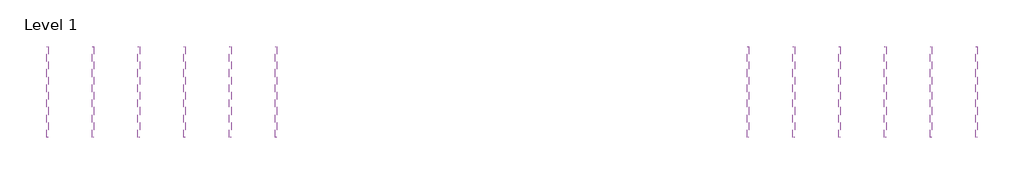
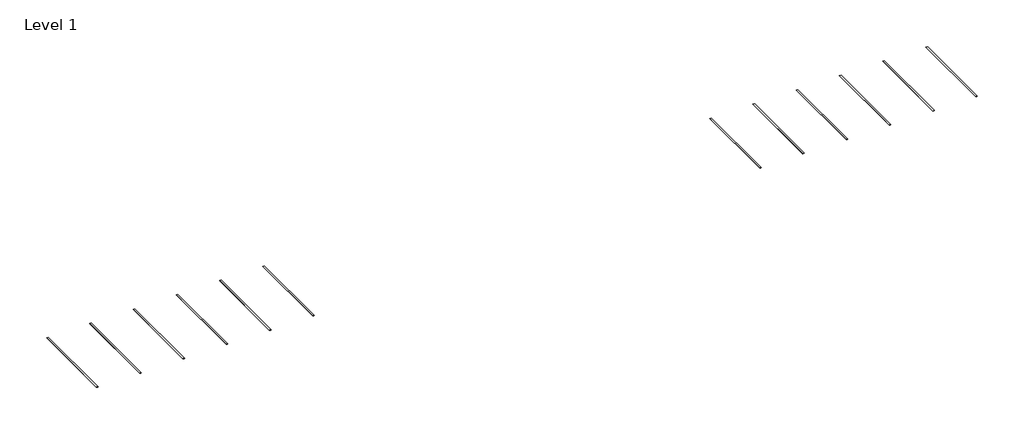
# One storey: 12 proxies.
"""IFC4 building model written with IfcOpenShell, lengths in millimetres."""

import ifcopenshell
import ifcopenshell.guid

model = None  # the IFC model being written
_history = None  # IfcOwnerHistory: only IFC2X3 demands one
_inside = {}  # id of a spatial element -> (the spatial element, [elements in it])
_under = {}  # id of a project, library or spatial element -> (it, [spatial elements below it])
_declared = {}  # id of a project -> (the project, [libraries it declares])
_typed = {}  # id of a type object -> (the type object, [elements of that type])
_made_of = {}  # id of a material, layer set ... -> (it, [elements and type objects made of it])


def new_model(schema):
    """Start an empty IFC model of exactly this schema.

    Asked for "IFC4X3", IfcOpenShell would pick the latest addendum, in which some entities
    have other attributes; the version numbers below select the first issue.
    IFC2X3 requires an IfcOwnerHistory on every rooted entity: one is made here for all.
    """
    global model, _history
    if schema == "IFC4X3":
        model = ifcopenshell.file(schema_version=(4, 3, 0, 0))
    else:
        model = ifcopenshell.file(schema=schema)
    _inside.clear()
    _under.clear()
    _declared.clear()
    _typed.clear()
    _made_of.clear()
    _history = None
    if model.schema == "IFC2X3":
        org = make("IfcOrganization", Name="unknown")
        user = make(
            "IfcPersonAndOrganization",
            ThePerson=make("IfcPerson", FamilyName="unknown"),
            TheOrganization=org,
        )
        app = make(
            "IfcApplication",
            ApplicationDeveloper=org,
            Version="unknown",
            ApplicationFullName="unknown",
            ApplicationIdentifier="unknown",
        )
        _history = make(
            "IfcOwnerHistory",
            OwningUser=user,
            OwningApplication=app,
            ChangeAction="ADDED",
            CreationDate=0,
        )
    return model


def make(cls, **values):
    """One entity of the class cls with the attributes given. An attribute that is None is left unset."""
    return model.create_entity(
        cls, **{name: value for name, value in values.items() if value is not None}
    )


def rooted(cls, **values):
    """An entity with a GlobalId (a new one), such as an element, a storey or a relation."""
    return make(cls, GlobalId=ifcopenshell.guid.new(), OwnerHistory=_history, **values)


def si_unit(unit_type, name, prefix=None):
    """IfcSIUnit, for example si_unit("LENGTHUNIT", "METRE", prefix="MILLI")."""
    return make("IfcSIUnit", UnitType=unit_type, Prefix=prefix, Name=name)


def assignment(units):
    """IfcUnitAssignment: the units of a project."""
    return None if units is None else make("IfcUnitAssignment", Units=units)


def point(xyz):
    """IfcCartesianPoint."""
    return None if xyz is None else make("IfcCartesianPoint", Coordinates=xyz)


def direction(xyz):
    """IfcDirection."""
    return None if xyz is None else make("IfcDirection", DirectionRatios=xyz)


def frame(location, z_axis=None, x_axis=None):
    """IfcAxis2Placement3D, a coordinate frame: its origin and axes. An axis left out is left unset."""
    return make(
        "IfcAxis2Placement3D",
        Location=point(location),
        Axis=direction(z_axis),
        RefDirection=direction(x_axis),
    )


def origin():
    """The frame at (0, 0, 0) with its axes left unset."""
    return frame((0.0, 0.0, 0.0))


def origin_with_axes():
    """The frame at (0, 0, 0) with the z axis (0, 0, 1) and the x axis (1, 0, 0) written out."""
    return frame((0.0, 0.0, 0.0), z_axis=(0.0, 0.0, 1.0), x_axis=(1.0, 0.0, 0.0))


def place(relative_to, where):
    """IfcLocalPlacement: puts the frame where relative to a parent placement (None: the world)."""
    return make(
        "IfcLocalPlacement", PlacementRelTo=relative_to, RelativePlacement=where
    )


def context(
    kind, dimensions, precision=None, world=None, true_north=None, identifier=None
):
    """IfcGeometricRepresentationContext, for example the 3D "Model" context."""
    return make(
        "IfcGeometricRepresentationContext",
        ContextIdentifier=identifier,
        ContextType=kind,
        CoordinateSpaceDimension=dimensions,
        Precision=precision,
        WorldCoordinateSystem=world,
        TrueNorth=true_north,
    )


def project(units=None, contexts=None):
    """IfcProject with its units and contexts."""
    return rooted(
        "IfcProject",
        Name="project",
        RepresentationContexts=contexts,
        UnitsInContext=assignment(units),
    )


def spatial(cls, under=None, at=None, **own):
    """A site, building, storey or space (cls), placed at a placement, below another one or the project."""
    s = rooted(cls, ObjectPlacement=at, **own)
    if under is not None:
        _under.setdefault(under.id(), (under, []))[1].append(s)
    return s


def polyline(points):
    """IfcPolyline through the points."""
    return make("IfcPolyline", Points=[point(p) for p in points])


def outline(outer, holes=None, kind="AREA"):
    """IfcArbitraryClosedProfileDef: a profile drawn as a closed curve; with holes, ...WithVoids."""
    if holes is None:
        return make("IfcArbitraryClosedProfileDef", ProfileType=kind, OuterCurve=outer)
    return make(
        "IfcArbitraryProfileDefWithVoids",
        ProfileType=kind,
        OuterCurve=outer,
        InnerCurves=holes,
    )


def extrude(swept, where, along, depth):
    """IfcExtrudedAreaSolid: the profile swept, set in the frame where, extruded along a direction by depth."""
    return make(
        "IfcExtrudedAreaSolid",
        SweptArea=swept,
        Position=where,
        ExtrudedDirection=direction(along),
        Depth=depth,
    )


def shape(context_of_items, identifier, shape_type, items):
    """IfcShapeRepresentation: the items that make up one representation, for example the "Body"."""
    return make(
        "IfcShapeRepresentation",
        ContextOfItems=context_of_items,
        RepresentationIdentifier=identifier,
        RepresentationType=shape_type,
        Items=items,
    )


def source(mapping_origin, context_of_items, identifier, shape_type, items):
    """IfcRepresentationMap: a shape defined once, which mapped items show again and again."""
    return make(
        "IfcRepresentationMap",
        MappingOrigin=mapping_origin,
        MappedRepresentation=shape(context_of_items, identifier, shape_type, items),
    )


def transform(
    local_origin,
    x_axis=None,
    y_axis=None,
    z_axis=None,
    scale=None,
    scale2=None,
    scale3=None,
    uniform=True,
):
    """IfcCartesianTransformationOperator3D, or its non-uniform kind. x_axis, y_axis, z_axis: its Axis1, 2, 3."""
    if uniform:
        return make(
            "IfcCartesianTransformationOperator3D",
            Axis1=direction(x_axis),
            Axis2=direction(y_axis),
            LocalOrigin=point(local_origin),
            Scale=scale,
            Axis3=direction(z_axis),
        )
    return make(
        "IfcCartesianTransformationOperator3DnonUniform",
        Axis1=direction(x_axis),
        Axis2=direction(y_axis),
        LocalOrigin=point(local_origin),
        Scale=scale,
        Axis3=direction(z_axis),
        Scale2=scale2,
        Scale3=scale3,
    )


def mapped(mapping_source, mapping_target):
    """IfcMappedItem: shows the shape of a source again, moved by a transform."""
    return make(
        "IfcMappedItem", MappingSource=mapping_source, MappingTarget=mapping_target
    )


def made_of(thing, what):
    """Note that an element or type object is made of a material, layer set ...; save() writes the relation."""
    if what is not None:
        _made_of.setdefault(what.id(), (what, []))[1].append(thing)
    return thing


def element(
    cls,
    number,
    at=None,
    inside=None,
    cuts=None,
    type_object=None,
    material=None,
    context=None,
    identifier="Body",
    shape_type=None,
    held_by="IfcProductDefinitionShape",
    body=None,
    shapes=None,
    **own,
):
    """One element of the class cls, such as IfcWall. Its Tag is "e" and its number.

    at: its placement. inside: the storey or other place that contains it. cuts: it is an
    opening in that element (IfcRelVoidsElement). A single representation is given by context,
    identifier, shape_type and body (its items); several are given by shapes. held_by: the class
    of the entity that holds the representations. save() writes the other relations.
    """
    e = rooted(cls, Tag="e%d" % number, ObjectPlacement=at, **own)
    if body is not None:
        shapes = [shape(context, identifier, shape_type, body)]
    if shapes is not None:
        e.Representation = make(held_by, Representations=shapes)
    if inside is not None:
        _inside.setdefault(inside.id(), (inside, []))[1].append(e)
    if cuts is not None:
        rooted(
            "IfcRelVoidsElement", RelatingBuildingElement=cuts, RelatedOpeningElement=e
        )
    if type_object is not None:
        _typed.setdefault(type_object.id(), (type_object, []))[1].append(e)
    return made_of(e, material)


def aggregate(whole, parts):
    """IfcRelAggregates: a whole, such as a stair, and the parts it consists of."""
    return rooted("IfcRelAggregates", RelatingObject=whole, RelatedObjects=parts)


def save(model, path):
    """Write the relations noted so far, then the file.

    IfcRelAggregates (storeys below a building ...), IfcRelContainedInSpatialStructure (elements
    in a storey), IfcRelDefinesByType, IfcRelAssociatesMaterial and IfcRelDeclares: one each for
    every whole, place, type object, material and project.
    """
    for whole, parts in _under.values():
        aggregate(whole, parts)
    for where, things in _inside.values():
        rooted(
            "IfcRelContainedInSpatialStructure",
            RelatedElements=things,
            RelatingStructure=where,
        )
    for kind, things in _typed.values():
        rooted("IfcRelDefinesByType", RelatedObjects=things, RelatingType=kind)
    for what, things in _made_of.values():
        rooted("IfcRelAssociatesMaterial", RelatedObjects=things, RelatingMaterial=what)
    for by, libraries in _declared.values():
        rooted("IfcRelDeclares", RelatingContext=by, RelatedDefinitions=libraries)
    model.write(path)


def parking_space_9_x_18_90_deg_b8b21359(model_context):
    return source(origin(), model_context, "Body", "SweptSolid", [
        extrude(outline(polyline([(-50.8, 0.0), (50.8, 0.0), (50.8, -5486.4), (-50.8, -5486.4), (-50.8, 0.0)])), origin_with_axes(), (0.0, 0.0, 1.0), 3.175),
    ])


model = new_model("IFC4")

# Units and contexts
model_context = context("Model", 3, world=origin())
ifc_project = project(units=[si_unit("LENGTHUNIT", "METRE", prefix="MILLI")], contexts=[model_context])

# Site, building, storey
site = spatial("IfcSite", under=ifc_project)
building = spatial("IfcBuilding", under=site)
storey = spatial("IfcBuildingStorey", under=building, Name="Level 1", Elevation=0.0)

# Proxies
placement = place(None, origin())
parking_space_9_x_18_90_deg_shape = parking_space_9_x_18_90_deg_b8b21359(model_context)
element("IfcBuildingElementProxy", 1, Name="Parking Space : 9' x 18' - 90 deg", ObjectType="Parking Space : 9' x 18' - 90 deg", at=placement, inside=storey, context=model_context, shape_type="MappedRepresentation", body=[
    mapped(parking_space_9_x_18_90_deg_shape, transform((-104687.958026, -122057.1218987, 3048.7803686), x_axis=(1.0, 0.0, 0.0), y_axis=(0.0, 1.0, 0.0), z_axis=(0.0, 0.0, 1.0))),
])
element("IfcBuildingElementProxy", 2, Name="Parking Space : 9' x 18' - 90 deg", ObjectType="Parking Space : 9' x 18' - 90 deg", at=placement, inside=storey, context=model_context, shape_type="MappedRepresentation", body=[
    mapped(parking_space_9_x_18_90_deg_shape, transform((-107431.158026, -122057.1218987, 3048.7803686), x_axis=(1.0, 0.0, 0.0), y_axis=(0.0, 1.0, 0.0), z_axis=(0.0, 0.0, 1.0))),
])
element("IfcBuildingElementProxy", 3, Name="Parking Space : 9' x 18' - 90 deg", ObjectType="Parking Space : 9' x 18' - 90 deg", at=placement, inside=storey, context=model_context, shape_type="MappedRepresentation", body=[
    mapped(parking_space_9_x_18_90_deg_shape, transform((-110174.358026, -122057.1218987, 3048.7803686), x_axis=(1.0, 0.0, 0.0), y_axis=(0.0, 1.0, 0.0), z_axis=(0.0, 0.0, 1.0))),
])
element("IfcBuildingElementProxy", 4, Name="Parking Space : 9' x 18' - 90 deg", ObjectType="Parking Space : 9' x 18' - 90 deg", at=placement, inside=storey, context=model_context, shape_type="MappedRepresentation", body=[
    mapped(parking_space_9_x_18_90_deg_shape, transform((-112917.558026, -122057.1218987, 3048.7803686), x_axis=(1.0, 0.0, 0.0), y_axis=(0.0, 1.0, 0.0), z_axis=(0.0, 0.0, 1.0))),
])
element("IfcBuildingElementProxy", 5, Name="Parking Space : 9' x 18' - 90 deg", ObjectType="Parking Space : 9' x 18' - 90 deg", at=placement, inside=storey, context=model_context, shape_type="MappedRepresentation", body=[
    mapped(parking_space_9_x_18_90_deg_shape, transform((-115660.758026, -122057.1218987, 3048.7803686), x_axis=(1.0, 0.0, 0.0), y_axis=(0.0, 1.0, 0.0), z_axis=(0.0, 0.0, 1.0))),
])
element("IfcBuildingElementProxy", 6, Name="Parking Space : 9' x 18' - 90 deg", ObjectType="Parking Space : 9' x 18' - 90 deg", at=placement, inside=storey, context=model_context, shape_type="MappedRepresentation", body=[
    mapped(parking_space_9_x_18_90_deg_shape, transform((-118403.958026, -122057.1218987, 3048.7803686), x_axis=(1.0, 0.0, 0.0), y_axis=(0.0, 1.0, 0.0), z_axis=(0.0, 0.0, 1.0))),
])
element("IfcBuildingElementProxy", 7, Name="Parking Space : 9' x 18' - 90 deg", ObjectType="Parking Space : 9' x 18' - 90 deg", at=placement, inside=storey, context=model_context, shape_type="MappedRepresentation", body=[
    mapped(parking_space_9_x_18_90_deg_shape, transform((-62625.558026, -122057.1218987, 3048.7803686), x_axis=(1.0, 0.0, 0.0), y_axis=(0.0, 1.0, 0.0), z_axis=(0.0, 0.0, 1.0))),
])
element("IfcBuildingElementProxy", 8, Name="Parking Space : 9' x 18' - 90 deg", ObjectType="Parking Space : 9' x 18' - 90 deg", at=placement, inside=storey, context=model_context, shape_type="MappedRepresentation", body=[
    mapped(parking_space_9_x_18_90_deg_shape, transform((-65368.758026, -122057.1218987, 3048.7803686), x_axis=(1.0, 0.0, 0.0), y_axis=(0.0, 1.0, 0.0), z_axis=(0.0, 0.0, 1.0))),
])
element("IfcBuildingElementProxy", 9, Name="Parking Space : 9' x 18' - 90 deg", ObjectType="Parking Space : 9' x 18' - 90 deg", at=placement, inside=storey, context=model_context, shape_type="MappedRepresentation", body=[
    mapped(parking_space_9_x_18_90_deg_shape, transform((-68111.958026, -122057.1218987, 3048.7803686), x_axis=(1.0, 0.0, 0.0), y_axis=(0.0, 1.0, 0.0), z_axis=(0.0, 0.0, 1.0))),
])
element("IfcBuildingElementProxy", 10, Name="Parking Space : 9' x 18' - 90 deg", ObjectType="Parking Space : 9' x 18' - 90 deg", at=placement, inside=storey, context=model_context, shape_type="MappedRepresentation", body=[
    mapped(parking_space_9_x_18_90_deg_shape, transform((-70855.158026, -122057.1218987, 3048.7803686), x_axis=(1.0, 0.0, 0.0), y_axis=(0.0, 1.0, 0.0), z_axis=(0.0, 0.0, 1.0))),
])
element("IfcBuildingElementProxy", 11, Name="Parking Space : 9' x 18' - 90 deg", ObjectType="Parking Space : 9' x 18' - 90 deg", at=placement, inside=storey, context=model_context, shape_type="MappedRepresentation", body=[
    mapped(parking_space_9_x_18_90_deg_shape, transform((-73598.358026, -122057.1218987, 3048.7803686), x_axis=(1.0, 0.0, 0.0), y_axis=(0.0, 1.0, 0.0), z_axis=(0.0, 0.0, 1.0))),
])
element("IfcBuildingElementProxy", 12, Name="Parking Space : 9' x 18' - 90 deg", ObjectType="Parking Space : 9' x 18' - 90 deg", at=placement, inside=storey, context=model_context, shape_type="MappedRepresentation", body=[
    mapped(parking_space_9_x_18_90_deg_shape, transform((-76341.558026, -122057.1218987, 3048.7803686), x_axis=(1.0, 0.0, 0.0), y_axis=(0.0, 1.0, 0.0), z_axis=(0.0, 0.0, 1.0))),
])

save(model, "model.ifc")
